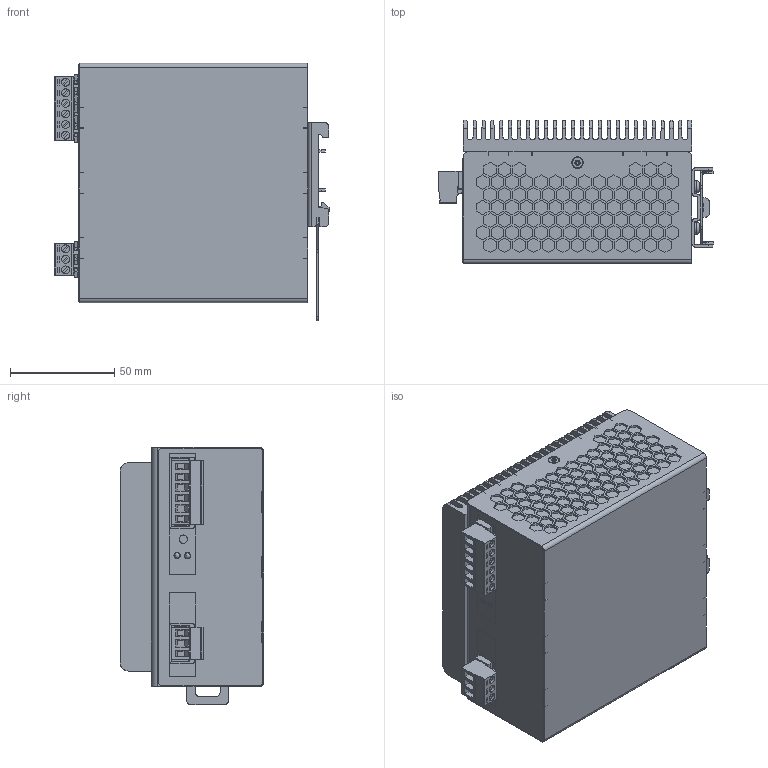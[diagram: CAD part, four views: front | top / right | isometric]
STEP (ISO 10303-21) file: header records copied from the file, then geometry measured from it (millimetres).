
FILE_DESCRIPTION (( 'STEP AP214' ), '1' );
FILE_NAME ('NDD240_3D_light.STEP', '2016-04-27T09:44:11', ( 'miky' ), ( 'Microsoft' ), 'SwSTEP 2.0', 'SolidWorks 2014', '' );
FILE_SCHEMA (( 'AUTOMOTIVE_DESIGN' ));
Length unit declared in the file: millimetre
Products named in the file (1): NDD240_3D_light
Bounding box: 132.45 x 69 x 123.7 mm (x, y, z)
Volume: 786565.7 mm3; surface area: 116409.9 mm2
Topology: 1 solids, 7 shells, 2577 faces, 7035 edges, 4647 vertices
Faces by surface type: plane 2076, cylinder 441, cone 50, torus 4, bspline 4, sphere 2
Entity records: 109270 total; most frequent: CARTESIAN_POINT 16732, ORIENTED_EDGE 14058, DIRECTION 12722, EDGE_CURVE 7029, VECTOR 5812, LINE 5812, VERTEX_POINT 4643, AXIS2_PLACEMENT_3D 3455
